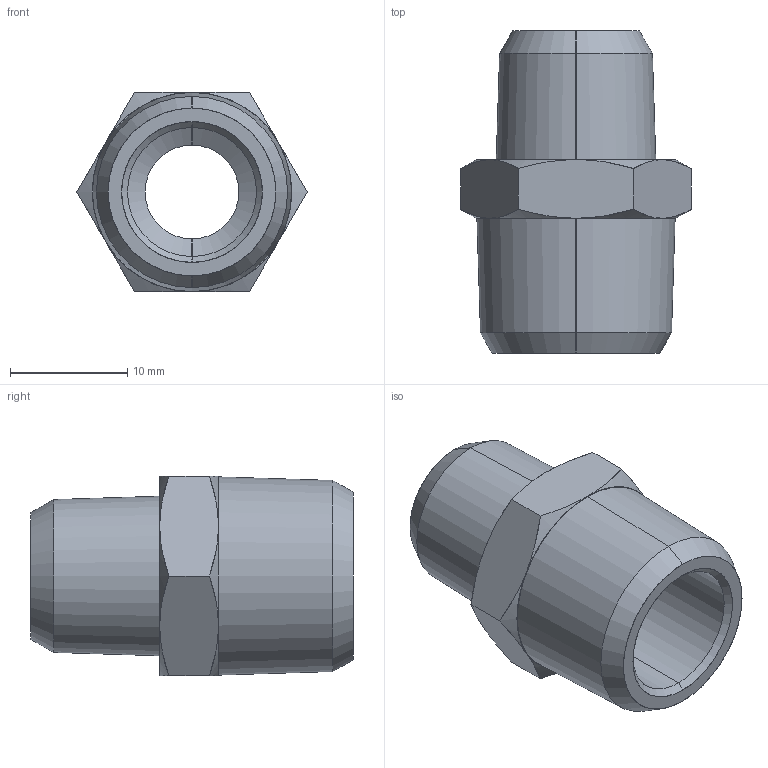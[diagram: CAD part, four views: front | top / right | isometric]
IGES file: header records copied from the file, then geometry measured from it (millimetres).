
Start section: SolidWorks IGES file using analytic representation for surfaces
Global section: file name: K:\Disegni Esecutivi\Accessori\2020\0202000017W00.IGS; native system: SolidWorks 2007; preprocessor: SolidWorks 2007; author: cad02; date: 071018.112108; units: millimetre
Bounding box: 19.63 x 27.5 x 17 mm (x, y, z)
Surface area: 2413.9 mm2 (no closed solid volume)
Topology: 0 solids, 0 shells, 40 faces, 556 edges, 556 vertices
Faces by surface type: revolution 30, bspline 10
